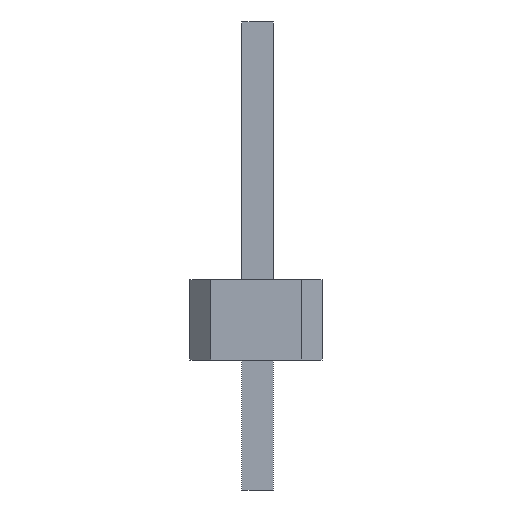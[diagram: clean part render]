
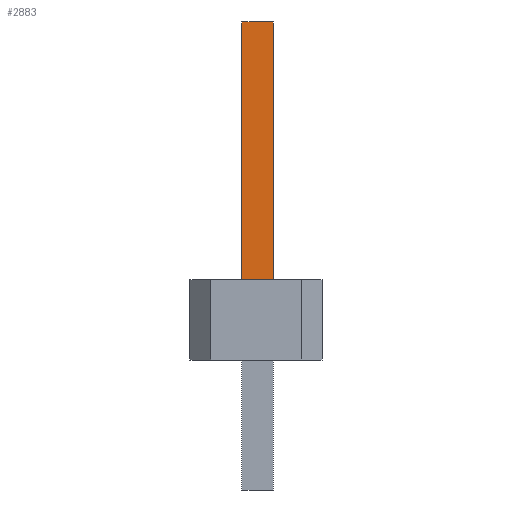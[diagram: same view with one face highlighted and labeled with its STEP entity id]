
A CAD part, front view. The second image highlights one B-rep face of the part: STEP entity #2883.
In plain terms, the highlighted planar face has unit normal (0, -1, 0).
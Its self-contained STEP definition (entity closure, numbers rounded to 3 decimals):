
#211=FACE_OUTER_BOUND('',#387,.T.);
#387=EDGE_LOOP('',(#2551,#2552,#2553,#2554));
#766=LINE('',#4582,#1150);
#767=LINE('',#4585,#1151);
#770=LINE('',#4591,#1154);
#771=LINE('',#4592,#1155);
#1150=VECTOR('',#3774,1.);
#1151=VECTOR('',#3777,1.);
#1154=VECTOR('',#3782,1.);
#1155=VECTOR('',#3783,1.);
#1408=VERTEX_POINT('',#4576);
#1410=VERTEX_POINT('',#4580);
#1411=VERTEX_POINT('',#4584);
#1413=VERTEX_POINT('',#4590);
#1790=EDGE_CURVE('',#1408,#1410,#766,.T.);
#1791=EDGE_CURVE('',#1408,#1411,#767,.T.);
#1794=EDGE_CURVE('',#1410,#1413,#770,.T.);
#1795=EDGE_CURVE('',#1411,#1413,#771,.T.);
#2551=ORIENTED_EDGE('',*,*,#1794,.T.);
#2552=ORIENTED_EDGE('',*,*,#1795,.F.);
#2553=ORIENTED_EDGE('',*,*,#1791,.F.);
#2554=ORIENTED_EDGE('',*,*,#1790,.T.);
#2723=PLANE('',#3077);
#2883=ADVANCED_FACE('',(#211),#2723,.F.);
#3077=AXIS2_PLACEMENT_3D('',#4589,#3780,#3781);
#3774=DIRECTION('',(1.,0.,0.));
#3777=DIRECTION('',(0.,0.,1.));
#3780=DIRECTION('center_axis',(0.,1.,0.));
#3781=DIRECTION('ref_axis',(0.,0.,1.));
#3782=DIRECTION('',(0.,0.,1.));
#3783=DIRECTION('',(1.,0.,0.));
#4576=CARTESIAN_POINT('',(-0.27,-10.43,1.54));
#4580=CARTESIAN_POINT('',(0.33,-10.43,1.54));
#4582=CARTESIAN_POINT('',(-0.77,-10.43,1.54));
#4584=CARTESIAN_POINT('',(-0.27,-10.43,6.5));
#4585=CARTESIAN_POINT('',(-0.27,-10.43,-2.5));
#4589=CARTESIAN_POINT('Origin',(-0.27,-10.43,-2.5));
#4590=CARTESIAN_POINT('',(0.33,-10.43,6.5));
#4591=CARTESIAN_POINT('',(0.33,-10.43,-2.5));
#4592=CARTESIAN_POINT('',(-0.27,-10.43,6.5));
